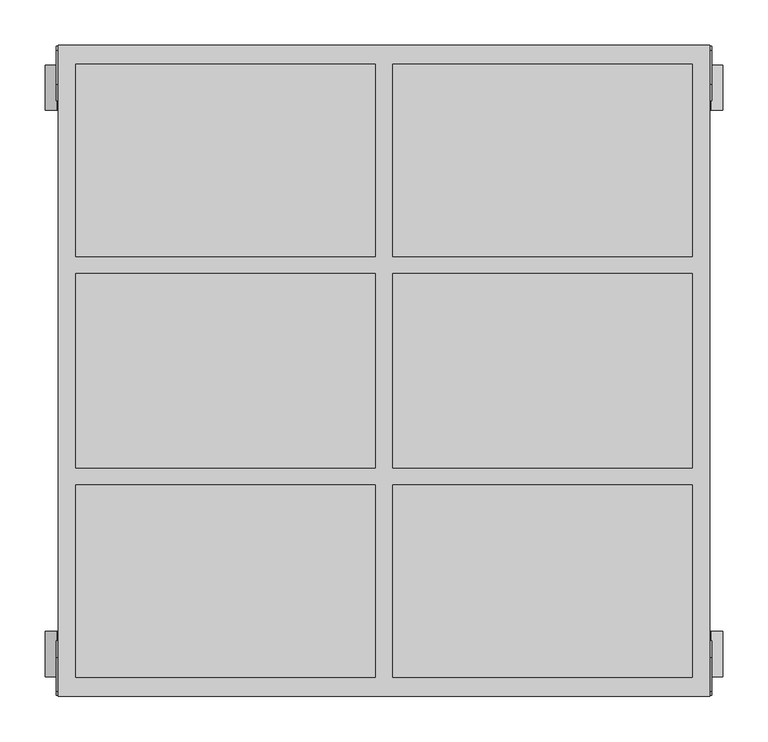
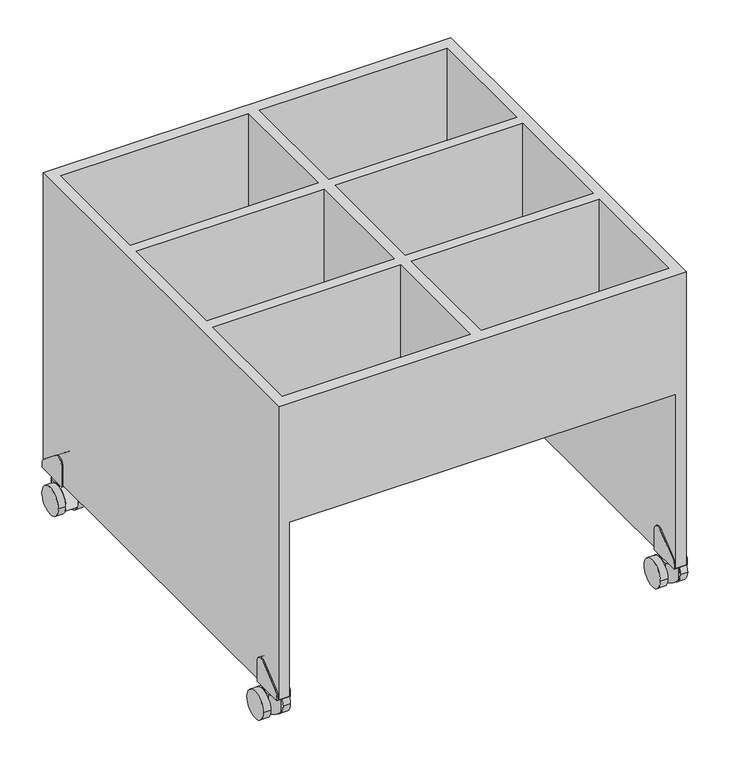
"""IFC4 building model written with IfcOpenShell, lengths in millimetres: furniture geometry, BK Library - Mille - Bookbrowser Large : BK Library - Mille - Bookbrowser Large."""

from ifc_helpers import new_model, si_unit, point, frame, frame_2d, origin, place, context, project, spatial, polyline, circle_curve, trimmed, segment, composite_curve, outline, extrude, faceted_brep, source, transform, mapped, element, save
from ifc_brep_helpers import plane_surface, cylinder_surface, advanced_brep


def furniture_7b108c40(model_context):
    return source(origin(), model_context, "Body", "SolidModel", [
        faceted_brep([(-340.0, -359.0, 57.3), (-340.0, 359.0, 57.3), (-340.0, 359.0, 380.4116783), (-340.0, -359.0, 380.4116783), (-340.0, 338.0, 401.4116783), (-340.0, 338.0, 602.4116783), (-340.0, 126.0, 602.4116783), (-340.0, 126.0, 401.4116783), (-340.0, -338.0, 602.4116783), (-340.0, -338.0, 401.4116783), (-340.0, -126.0, 401.4116783), (-340.0, -126.0, 602.4116783), (-340.0, 107.0, 401.4116783), (-340.0, 107.0, 602.4116783), (-340.0, -107.0, 602.4116783), (-340.0, -107.0, 401.4116783), (-359.0, -359.0, 57.3), (-359.0, -359.0, 602.4116783), (-359.0, 359.0, 602.4116783), (-359.0, 359.0, 57.3), (359.0, 359.0, 602.4116783), (359.0, 359.0, 57.3), (340.0, 359.0, 57.3), (340.0, 359.0, 380.4116783), (359.0, -359.0, 602.4116783), (-9.5, -338.0, 602.4116783), (-9.5, -126.0, 602.4116783), (340.0, -338.0, 602.4116783), (9.5, -338.0, 602.4116783), (9.5, -126.0, 602.4116783), (340.0, -126.0, 602.4116783), (-9.5, 338.0, 602.4116783), (-9.5, 126.0, 602.4116783), (9.5, 338.0, 602.4116783), (340.0, 338.0, 602.4116783), (340.0, 126.0, 602.4116783), (9.5, 126.0, 602.4116783), (340.0, 107.0, 602.4116783), (340.0, -107.0, 602.4116783), (9.5, -107.0, 602.4116783), (9.5, 107.0, 602.4116783), (-9.5, 107.0, 602.4116783), (-9.5, -107.0, 602.4116783), (340.0, -359.0, 380.4116783), (340.0, -359.0, 57.3), (359.0, -359.0, 57.3), (340.0, 338.0, 401.4116783), (340.0, 126.0, 401.4116783), (340.0, -338.0, 401.4116783), (340.0, -126.0, 401.4116783), (340.0, 107.0, 401.4116783), (340.0, -107.0, 401.4116783), (-9.5, 338.0, 401.4116783), (9.5, 338.0, 401.4116783), (-9.5, 126.0, 401.4116783), (9.5, 126.0, 401.4116783), (-9.5, -338.0, 401.4116783), (-9.5, -126.0, 401.4116783), (9.5, -338.0, 401.4116783), (9.5, -126.0, 401.4116783), (-9.5, 107.0, 401.4116783), (-9.5, -107.0, 401.4116783), (9.5, 107.0, 401.4116783), (9.5, -107.0, 401.4116783)], [[[0, 1, 2, 3]], [[4, 5, 6, 7]], [[8, 9, 10, 11]], [[12, 13, 14, 15]], [[16, 17, 18, 19]], [[1, 0, 16, 19]], [[19, 18, 20, 21, 22, 23, 2, 1]], [[18, 17, 24, 20], [25, 8, 11, 26], [27, 28, 29, 30], [5, 31, 32, 6], [33, 34, 35, 36], [37, 38, 39, 40], [41, 42, 14, 13]], [[17, 16, 0, 3, 43, 44, 45, 24]], [[22, 44, 43, 23]], [[34, 46, 47, 35]], [[48, 27, 30, 49]], [[37, 50, 51, 38]], [[45, 21, 20, 24]], [[44, 22, 21, 45]], [[5, 4, 52, 31]], [[46, 34, 33, 53]], [[52, 4, 7, 54]], [[46, 53, 55, 47]], [[9, 56, 57, 10]], [[58, 48, 49, 59]], [[60, 12, 15, 61]], [[50, 62, 63, 51]], [[9, 8, 25, 56]], [[27, 48, 58, 28]], [[43, 3, 2, 23]], [[31, 52, 54, 32]], [[56, 25, 26, 57]], [[41, 60, 61, 42]], [[53, 33, 36, 55]], [[28, 58, 59, 29]], [[62, 40, 39, 63]], [[37, 40, 62, 50]], [[41, 13, 12, 60]], [[6, 32, 54, 7]], [[36, 35, 47, 55]], [[39, 38, 51, 63]], [[14, 42, 61, 15]], [[26, 11, 10, 57]], [[30, 29, 59, 49]]]),
        advanced_brep(
        [(-338.7, 309.4283363, 49.8233517), (-360.3, 309.4283363, 49.8233517), (-360.3, 287.4288655, 25.0040683), (-360.3, 289.3888843, 15.3004984), (-338.7, 289.4134713, 15.242325), (-338.7, 287.4288655, 25.0040683), (-338.7, 309.4283363, 50.242325), (-360.3, 309.4283363, 50.242325), (-338.7, 330.0880613, 50.242325), (-360.3, 330.0880613, 50.242325), (-360.3, 330.0880613, 15.242325), (-338.7, 330.0880613, 15.242325)],
        [
            (0, 1),
            (1, 2, circle_curve(frame((-360.3, 312.4288655, 25.0040683), z_axis=(1.0, 0.0, 0.0), x_axis=(0.0, 1.0, 0.0)), 25.0)),
            (2, 3, circle_curve(frame((-360.3, 312.4288655, 25.0040683), z_axis=(1.0, 0.0, 0.0), x_axis=(0.0, 1.0, 0.0)), 25.0)),
            (3, 4),
            (4, 5, circle_curve(frame((-338.7, 312.4288655, 25.0040683), z_axis=(-1.0, 0.0, 0.0), x_axis=(0.0, 1.0, 0.0)), 25.0)),
            (5, 0, circle_curve(frame((-338.7, 312.4288655, 25.0040683), z_axis=(-1.0, 0.0, 0.0), x_axis=(0.0, 1.0, 0.0)), 25.0)),
            (0, 6),
            (6, 7),
            (7, 1),
            (8, 9, circle_curve(frame((-349.5, 328.0, 50.242325), z_axis=(0.0, 0.0, 1.0), x_axis=(-1.0, 0.0, 0.0)), 11.0)),
            (9, 7),
            (6, 8),
            (10, 11, circle_curve(frame((-349.5, 328.0, 15.242325), z_axis=(0.0, 0.0, -1.0), x_axis=(-1.0, 0.0, 0.0)), 11.0)),
            (11, 4),
            (3, 10),
            (11, 8),
            (9, 10),
        ],
        [
            cylinder_surface(frame((-324.1978919, 312.4288655, 25.0040683), z_axis=(1.0, 0.0, 0.0), x_axis=(0.0, 1.0, 0.0)), 25.0),
            plane_surface(frame((-392.3193932, 309.4283363, 53.2084184), z_axis=(0.0, -1.0, 0.0), x_axis=(1.0, 0.0, 0.0))),
            plane_surface(frame((-360.5, 328.0, 50.242325), z_axis=(0.0, 0.0, 1.0), x_axis=(0.0, -1.0, 0.0))),
            plane_surface(frame((-360.5, 328.0, 15.242325), z_axis=(0.0, 0.0, -1.0), x_axis=(0.0, 1.0, 0.0))),
            plane_surface(frame((-338.7, 287.4288655, 50.242325), z_axis=(1.0, 0.0, 0.0), x_axis=(0.0, 0.0, -1.0))),
            plane_surface(frame((-360.3, 330.0880613, 50.242325), z_axis=(-1.0, 0.0, 0.0), x_axis=(0.0, 0.0, -1.0))),
            cylinder_surface(frame((-349.5, 328.0, 15.242325), z_axis=(0.0, 0.0, 1.0), x_axis=(-1.0, 0.0, 0.0)), 11.0),
        ],
        [
            (0, [[1, 2, 3, 4, 5, 6]]),
            (1, [[-1, 7, 8, 9]]),
            (2, [[10, 11, -8, 12]]),
            (3, [[13, 14, -4, 15]]),
            (4, [[16, -12, -7, -6, -5, -14]]),
            (5, [[17, -15, -3, -2, -9, -11]]),
            (6, [[-10, -16, -13, -17]]),
        ],
    ),
        advanced_brep(
        [(-338.7, 287.4288655, 25.0040683), (-338.7, 309.4283363, 49.8233517), (-338.7, 337.4288655, 25.0040683), (-338.7, 289.3888843, 15.3004984), (-325.7, 287.4288655, 25.0040683), (-325.7, 289.3888843, 15.3004984), (-325.7, 337.4288655, 25.0040683), (-325.7, 309.4283363, 49.8233517)],
        [
            (0, 1, circle_curve(frame((-338.7, 312.4288655, 25.0040683), z_axis=(-1.0, 0.0, 0.0), x_axis=(0.0, 1.0, 0.0)), 25.0)),
            (1, 2, circle_curve(frame((-338.7, 312.4288655, 25.0040683), z_axis=(-1.0, 0.0, 0.0), x_axis=(0.0, 1.0, 0.0)), 25.0)),
            (2, 3, circle_curve(frame((-338.7, 312.4288655, 25.0040683), z_axis=(-1.0, 0.0, 0.0), x_axis=(0.0, 1.0, 0.0)), 25.0)),
            (3, 0, circle_curve(frame((-338.7, 312.4288655, 25.0040683), z_axis=(-1.0, 0.0, 0.0), x_axis=(0.0, 1.0, 0.0)), 25.0)),
            (4, 5, circle_curve(frame((-325.7, 312.4288655, 25.0040683), z_axis=(1.0, 0.0, 0.0), x_axis=(0.0, 1.0, 0.0)), 25.0)),
            (5, 6, circle_curve(frame((-325.7, 312.4288655, 25.0040683), z_axis=(1.0, 0.0, 0.0), x_axis=(0.0, 1.0, 0.0)), 25.0)),
            (6, 7, circle_curve(frame((-325.7, 312.4288655, 25.0040683), z_axis=(1.0, 0.0, 0.0), x_axis=(0.0, 1.0, 0.0)), 25.0)),
            (7, 4, circle_curve(frame((-325.7, 312.4288655, 25.0040683), z_axis=(1.0, 0.0, 0.0), x_axis=(0.0, 1.0, 0.0)), 25.0)),
            (2, 6),
            (4, 0),
        ],
        [
            plane_surface(frame((-338.7, 337.4288655, 25.0040683), z_axis=(-1.0, 0.0, 0.0), x_axis=(0.0, 0.0, -1.0))),
            plane_surface(frame((-325.7, 337.4288655, 25.0040683), z_axis=(1.0, 0.0, 0.0), x_axis=(0.0, 0.0, 1.0))),
            cylinder_surface(frame((-325.7, 312.4288655, 25.0040683), z_axis=(-1.0, 0.0, 0.0), x_axis=(0.0, 1.0, 0.0)), 25.0),
        ],
        [
            (0, [[1, 2, 3, 4]]),
            (1, [[5, 6, 7, 8]]),
            (2, [[9, -6, -5, 10, -4, -3]]),
            (2, [[-9, -2, -1, -10, -8, -7]]),
        ],
    ),
        advanced_brep(
        [(-373.3, 287.4288655, 25.0040683), (-373.3, 309.4283363, 49.8233517), (-373.3, 337.4288655, 25.0040683), (-373.3, 289.3888843, 15.3004984), (-360.3, 287.4288655, 25.0040683), (-360.3, 289.3888843, 15.3004984), (-360.3, 337.4288655, 25.0040683), (-360.3, 309.4283363, 49.8233517)],
        [
            (0, 1, circle_curve(frame((-373.3, 312.4288655, 25.0040683), z_axis=(-1.0, 0.0, 0.0), x_axis=(0.0, 1.0, 0.0)), 25.0)),
            (1, 2, circle_curve(frame((-373.3, 312.4288655, 25.0040683), z_axis=(-1.0, 0.0, 0.0), x_axis=(0.0, 1.0, 0.0)), 25.0)),
            (2, 3, circle_curve(frame((-373.3, 312.4288655, 25.0040683), z_axis=(-1.0, 0.0, 0.0), x_axis=(0.0, 1.0, 0.0)), 25.0)),
            (3, 0, circle_curve(frame((-373.3, 312.4288655, 25.0040683), z_axis=(-1.0, 0.0, 0.0), x_axis=(0.0, 1.0, 0.0)), 25.0)),
            (4, 5, circle_curve(frame((-360.3, 312.4288655, 25.0040683), z_axis=(1.0, 0.0, 0.0), x_axis=(0.0, 1.0, 0.0)), 25.0)),
            (5, 6, circle_curve(frame((-360.3, 312.4288655, 25.0040683), z_axis=(1.0, 0.0, 0.0), x_axis=(0.0, 1.0, 0.0)), 25.0)),
            (6, 7, circle_curve(frame((-360.3, 312.4288655, 25.0040683), z_axis=(1.0, 0.0, 0.0), x_axis=(0.0, 1.0, 0.0)), 25.0)),
            (7, 4, circle_curve(frame((-360.3, 312.4288655, 25.0040683), z_axis=(1.0, 0.0, 0.0), x_axis=(0.0, 1.0, 0.0)), 25.0)),
            (2, 6),
            (4, 0),
        ],
        [
            plane_surface(frame((-373.3, 337.4288655, 25.0040683), z_axis=(-1.0, 0.0, 0.0), x_axis=(0.0, 0.0, -1.0))),
            plane_surface(frame((-360.3, 337.4288655, 25.0040683), z_axis=(1.0, 0.0, 0.0), x_axis=(0.0, 0.0, 1.0))),
            cylinder_surface(frame((-360.3, 312.4288655, 25.0040683), z_axis=(-1.0, 0.0, 0.0), x_axis=(0.0, 1.0, 0.0)), 25.0),
        ],
        [
            (0, [[1, 2, 3, 4]]),
            (1, [[5, 6, 7, 8]]),
            (2, [[9, -6, -5, 10, -4, -3]]),
            (2, [[-9, -2, -1, -10, -8, -7]]),
        ],
    ),
        extrude(outline(composite_curve([segment(trimmed(circle_curve(frame_2d((-349.5, 328.0)), 6.9282032), [point((-342.5717968, 328.0))], [point((-356.4282032, 328.0))], False, "CARTESIAN"), True, "CONTINUOUS"), segment(trimmed(circle_curve(frame_2d((-349.5, 328.0)), 6.9282032), [point((-356.4282032, 328.0))], [point((-342.5717968, 328.0))], False, "CARTESIAN"), True, "CONTINUOUS")], self_intersect=False)), frame((0.0, 0.0, 50.242325), z_axis=(0.0, 0.0, 1.0), x_axis=(1.0, 0.0, 0.0)), (0.0, 0.0, 1.0), 5.0581733),
        extrude(outline(composite_curve([segment(trimmed(circle_curve(frame_2d((345.500139, 63.2209576)), 12.5), [point((353.3541213, 72.9454093))], [point((358.000139, 63.2205187))], False, "CARTESIAN"), True, "CONTINUOUS"), segment(polyline([(358.000139, 63.2205187), (357.999861, 55.3004984), (298.000139, 55.3004984), (298.000139, 94.0004984)]), True, "CONTINUOUS"), segment(trimmed(circle_curve(frame_2d((309.300139, 94.0004984)), 11.3), [point((298.000139, 94.0004984))], [point((316.400139, 102.7914027))], False, "CARTESIAN"), True, "CONTINUOUS"), segment(polyline([(316.400139, 102.7914027), (353.3541213, 72.9454093)]), True, "CONTINUOUS")], self_intersect=False)), frame((-361.25, 0.0, 0.0), z_axis=(1.0, 0.0, 0.0), x_axis=(0.0, 1.0, 0.0)), (0.0, 0.0, 1.0), 23.5),
        advanced_brep(
        [(360.3, 309.4283363, 49.8233517), (338.7, 309.4283363, 49.8233517), (338.7, 287.4288655, 25.0040683), (338.7, 289.3888843, 15.3004984), (360.3, 289.4134713, 15.242325), (360.3, 287.4288655, 25.0040683), (360.3, 309.4283363, 50.242325), (338.7, 309.4283363, 50.242325), (360.3, 330.0880613, 50.242325), (338.7, 330.0880613, 50.242325), (338.7, 330.0880613, 15.242325), (360.3, 330.0880613, 15.242325)],
        [
            (0, 1),
            (1, 2, circle_curve(frame((338.7, 312.4288655, 25.0040683), z_axis=(1.0, 0.0, 0.0), x_axis=(0.0, 1.0, 0.0)), 25.0)),
            (2, 3, circle_curve(frame((338.7, 312.4288655, 25.0040683), z_axis=(1.0, 0.0, 0.0), x_axis=(0.0, 1.0, 0.0)), 25.0)),
            (3, 4),
            (4, 5, circle_curve(frame((360.3, 312.4288655, 25.0040683), z_axis=(-1.0, 0.0, 0.0), x_axis=(0.0, 1.0, 0.0)), 25.0)),
            (5, 0, circle_curve(frame((360.3, 312.4288655, 25.0040683), z_axis=(-1.0, 0.0, 0.0), x_axis=(0.0, 1.0, 0.0)), 25.0)),
            (0, 6),
            (6, 7),
            (7, 1),
            (8, 9, circle_curve(frame((349.5, 328.0, 50.242325), z_axis=(0.0, 0.0, 1.0), x_axis=(1.0, 0.0, 0.0)), 11.0)),
            (9, 7),
            (6, 8),
            (10, 11, circle_curve(frame((349.5, 328.0, 15.242325), z_axis=(0.0, 0.0, -1.0), x_axis=(1.0, 0.0, 0.0)), 11.0)),
            (11, 4),
            (3, 10),
            (9, 10),
            (11, 8),
        ],
        [
            cylinder_surface(frame((324.1978919, 312.4288655, 25.0040683), z_axis=(-1.0, 0.0, 0.0), x_axis=(0.0, 1.0, 0.0)), 25.0),
            plane_surface(frame((392.3193932, 309.4283363, 49.8233517), z_axis=(0.0, -1.0, 0.0), x_axis=(-1.0, 0.0, 0.0))),
            plane_surface(frame((338.7, 287.4288655, 50.242325), z_axis=(0.0, 0.0, 1.0), x_axis=(0.0, -1.0, 0.0))),
            plane_surface(frame((338.7, 287.4288655, 15.242325), z_axis=(0.0, 0.0, -1.0), x_axis=(0.0, 1.0, 0.0))),
            plane_surface(frame((338.7, 330.0880613, 50.242325), z_axis=(-1.0, 0.0, 0.0), x_axis=(0.0, 0.0, -1.0))),
            plane_surface(frame((360.3, 287.4288655, 50.242325), z_axis=(1.0, 0.0, 0.0), x_axis=(0.0, 0.0, -1.0))),
            cylinder_surface(frame((349.5, 328.0, 15.242325), z_axis=(0.0, 0.0, 1.0), x_axis=(1.0, 0.0, 0.0)), 11.0),
        ],
        [
            (0, [[1, 2, 3, 4, 5, 6]]),
            (1, [[-1, 7, 8, 9]]),
            (2, [[10, 11, -8, 12]]),
            (3, [[13, 14, -4, 15]]),
            (4, [[16, -15, -3, -2, -9, -11]]),
            (5, [[17, -12, -7, -6, -5, -14]]),
            (6, [[-10, -17, -13, -16]]),
        ],
    ),
        advanced_brep(
        [(338.7, 287.4288655, 25.0040683), (338.7, 289.3888843, 15.3004984), (338.7, 337.4288655, 25.0040683), (338.7, 309.4283363, 49.8233517), (325.7, 287.4288655, 25.0040683), (325.7, 309.4283363, 49.8233517), (325.7, 337.4288655, 25.0040683), (325.7, 289.3888843, 15.3004984)],
        [
            (0, 1, circle_curve(frame((338.7, 312.4288655, 25.0040683), z_axis=(1.0, 0.0, 0.0), x_axis=(0.0, 1.0, 0.0)), 25.0)),
            (1, 2, circle_curve(frame((338.7, 312.4288655, 25.0040683), z_axis=(1.0, 0.0, 0.0), x_axis=(0.0, 1.0, 0.0)), 25.0)),
            (2, 3, circle_curve(frame((338.7, 312.4288655, 25.0040683), z_axis=(1.0, 0.0, 0.0), x_axis=(0.0, 1.0, 0.0)), 25.0)),
            (3, 0, circle_curve(frame((338.7, 312.4288655, 25.0040683), z_axis=(1.0, 0.0, 0.0), x_axis=(0.0, 1.0, 0.0)), 25.0)),
            (4, 5, circle_curve(frame((325.7, 312.4288655, 25.0040683), z_axis=(-1.0, 0.0, 0.0), x_axis=(0.0, 1.0, 0.0)), 25.0)),
            (5, 6, circle_curve(frame((325.7, 312.4288655, 25.0040683), z_axis=(-1.0, 0.0, 0.0), x_axis=(0.0, 1.0, 0.0)), 25.0)),
            (6, 7, circle_curve(frame((325.7, 312.4288655, 25.0040683), z_axis=(-1.0, 0.0, 0.0), x_axis=(0.0, 1.0, 0.0)), 25.0)),
            (7, 4, circle_curve(frame((325.7, 312.4288655, 25.0040683), z_axis=(-1.0, 0.0, 0.0), x_axis=(0.0, 1.0, 0.0)), 25.0)),
            (0, 4),
            (6, 2),
        ],
        [
            plane_surface(frame((338.7, 337.4288655, 25.0040683), z_axis=(1.0, 0.0, 0.0), x_axis=(0.0, 0.0, 1.0))),
            plane_surface(frame((325.7, 337.4288655, 25.0040683), z_axis=(-1.0, 0.0, 0.0), x_axis=(0.0, 0.0, -1.0))),
            cylinder_surface(frame((325.7, 312.4288655, 25.0040683), z_axis=(1.0, 0.0, 0.0), x_axis=(0.0, 1.0, 0.0)), 25.0),
        ],
        [
            (0, [[1, 2, 3, 4]]),
            (1, [[5, 6, 7, 8]]),
            (2, [[9, -8, -7, 10, -2, -1]]),
            (2, [[-9, -4, -3, -10, -6, -5]]),
        ],
    ),
        advanced_brep(
        [(373.3, 287.4288655, 25.0040683), (373.3, 289.3888843, 15.3004984), (373.3, 337.4288655, 25.0040683), (373.3, 309.4283363, 49.8233517), (360.3, 287.4288655, 25.0040683), (360.3, 309.4283363, 49.8233517), (360.3, 337.4288655, 25.0040683), (360.3, 289.3888843, 15.3004984)],
        [
            (0, 1, circle_curve(frame((373.3, 312.4288655, 25.0040683), z_axis=(1.0, 0.0, 0.0), x_axis=(0.0, 1.0, 0.0)), 25.0)),
            (1, 2, circle_curve(frame((373.3, 312.4288655, 25.0040683), z_axis=(1.0, 0.0, 0.0), x_axis=(0.0, 1.0, 0.0)), 25.0)),
            (2, 3, circle_curve(frame((373.3, 312.4288655, 25.0040683), z_axis=(1.0, 0.0, 0.0), x_axis=(0.0, 1.0, 0.0)), 25.0)),
            (3, 0, circle_curve(frame((373.3, 312.4288655, 25.0040683), z_axis=(1.0, 0.0, 0.0), x_axis=(0.0, 1.0, 0.0)), 25.0)),
            (4, 5, circle_curve(frame((360.3, 312.4288655, 25.0040683), z_axis=(-1.0, 0.0, 0.0), x_axis=(0.0, 1.0, 0.0)), 25.0)),
            (5, 6, circle_curve(frame((360.3, 312.4288655, 25.0040683), z_axis=(-1.0, 0.0, 0.0), x_axis=(0.0, 1.0, 0.0)), 25.0)),
            (6, 7, circle_curve(frame((360.3, 312.4288655, 25.0040683), z_axis=(-1.0, 0.0, 0.0), x_axis=(0.0, 1.0, 0.0)), 25.0)),
            (7, 4, circle_curve(frame((360.3, 312.4288655, 25.0040683), z_axis=(-1.0, 0.0, 0.0), x_axis=(0.0, 1.0, 0.0)), 25.0)),
            (0, 4),
            (6, 2),
        ],
        [
            plane_surface(frame((373.3, 337.4288655, 25.0040683), z_axis=(1.0, 0.0, 0.0), x_axis=(0.0, 0.0, 1.0))),
            plane_surface(frame((360.3, 337.4288655, 25.0040683), z_axis=(-1.0, 0.0, 0.0), x_axis=(0.0, 0.0, -1.0))),
            cylinder_surface(frame((360.3, 312.4288655, 25.0040683), z_axis=(1.0, 0.0, 0.0), x_axis=(0.0, 1.0, 0.0)), 25.0),
        ],
        [
            (0, [[1, 2, 3, 4]]),
            (1, [[5, 6, 7, 8]]),
            (2, [[9, -8, -7, 10, -2, -1]]),
            (2, [[-9, -4, -3, -10, -6, -5]]),
        ],
    ),
        extrude(outline(composite_curve([segment(trimmed(circle_curve(frame_2d((349.5, 328.0)), 6.9282032), [point((342.5717968, 328.0))], [point((356.4282032, 328.0))], False, "CARTESIAN"), True, "CONTINUOUS"), segment(trimmed(circle_curve(frame_2d((349.5, 328.0)), 6.9282032), [point((356.4282032, 328.0))], [point((342.5717968, 328.0))], False, "CARTESIAN"), True, "CONTINUOUS")], self_intersect=False)), frame((0.0, 0.0, 50.242325), z_axis=(0.0, 0.0, 1.0), x_axis=(1.0, 0.0, 0.0)), (0.0, 0.0, 1.0), 5.0581733),
        extrude(outline(composite_curve([segment(trimmed(circle_curve(frame_2d((345.500139, 63.2209576)), 12.5), [point((353.3541213, 72.9454093))], [point((358.000139, 63.2205187))], False, "CARTESIAN"), True, "CONTINUOUS"), segment(polyline([(358.000139, 63.2205187), (357.999861, 55.3004984), (298.000139, 55.3004984), (298.000139, 94.0004984)]), True, "CONTINUOUS"), segment(trimmed(circle_curve(frame_2d((309.300139, 94.0004984)), 11.3), [point((298.000139, 94.0004984))], [point((316.400139, 102.7914027))], False, "CARTESIAN"), True, "CONTINUOUS"), segment(polyline([(316.400139, 102.7914027), (353.3541213, 72.9454093)]), True, "CONTINUOUS")], self_intersect=False)), frame((337.75, 0.0, 0.0), z_axis=(1.0, 0.0, 0.0), x_axis=(0.0, 1.0, 0.0)), (0.0, 0.0, 1.0), 23.5),
        advanced_brep(
        [(338.7, -309.4283363, 49.8233517), (360.3, -309.4283363, 49.8233517), (360.3, -287.4288655, 25.0040683), (360.3, -289.3888843, 15.3004984), (338.7, -289.4134713, 15.242325), (338.7, -287.4288655, 25.0040683), (338.7, -309.4283363, 50.242325), (360.3, -309.4283363, 50.242325), (338.7, -330.0880613, 50.242325), (360.3, -330.0880613, 50.242325), (360.3, -330.0880613, 15.242325), (338.7, -330.0880613, 15.242325)],
        [
            (0, 1),
            (1, 2, circle_curve(frame((360.3, -312.4288655, 25.0040683), z_axis=(-1.0, 0.0, 0.0), x_axis=(0.0, -1.0, 0.0)), 25.0)),
            (2, 3, circle_curve(frame((360.3, -312.4288655, 25.0040683), z_axis=(-1.0, 0.0, 0.0), x_axis=(0.0, -1.0, 0.0)), 25.0)),
            (3, 4),
            (4, 5, circle_curve(frame((338.7, -312.4288655, 25.0040683), z_axis=(1.0, 0.0, 0.0), x_axis=(0.0, -1.0, 0.0)), 25.0)),
            (5, 0, circle_curve(frame((338.7, -312.4288655, 25.0040683), z_axis=(1.0, 0.0, 0.0), x_axis=(0.0, -1.0, 0.0)), 25.0)),
            (0, 6),
            (6, 7),
            (7, 1),
            (8, 9, circle_curve(frame((349.5, -328.0, 50.242325), z_axis=(0.0, 0.0, 1.0), x_axis=(1.0, 0.0, 0.0)), 11.0)),
            (9, 7),
            (6, 8),
            (10, 11, circle_curve(frame((349.5, -328.0, 15.242325), z_axis=(0.0, 0.0, -1.0), x_axis=(1.0, 0.0, 0.0)), 11.0)),
            (11, 4),
            (3, 10),
            (11, 8),
            (9, 10),
        ],
        [
            cylinder_surface(frame((324.1978919, -312.4288655, 25.0040683), z_axis=(-1.0, 0.0, 0.0), x_axis=(0.0, -1.0, 0.0)), 25.0),
            plane_surface(frame((392.3193932, -309.4283363, 53.2084184), z_axis=(0.0, 1.0, 0.0), x_axis=(-1.0, 0.0, 0.0))),
            plane_surface(frame((360.5, -328.0, 50.242325), z_axis=(0.0, 0.0, 1.0), x_axis=(0.0, 1.0, 0.0))),
            plane_surface(frame((360.5, -328.0, 15.242325), z_axis=(0.0, 0.0, -1.0), x_axis=(0.0, -1.0, 0.0))),
            plane_surface(frame((338.7, -287.4288655, 50.242325), z_axis=(-1.0, 0.0, 0.0), x_axis=(0.0, 0.0, -1.0))),
            plane_surface(frame((360.3, -330.0880613, 50.242325), z_axis=(1.0, 0.0, 0.0), x_axis=(0.0, 0.0, -1.0))),
            cylinder_surface(frame((349.5, -328.0, 15.242325), z_axis=(0.0, 0.0, 1.0), x_axis=(1.0, 0.0, 0.0)), 11.0),
        ],
        [
            (0, [[1, 2, 3, 4, 5, 6]]),
            (1, [[-1, 7, 8, 9]]),
            (2, [[10, 11, -8, 12]]),
            (3, [[13, 14, -4, 15]]),
            (4, [[16, -12, -7, -6, -5, -14]]),
            (5, [[17, -15, -3, -2, -9, -11]]),
            (6, [[-10, -16, -13, -17]]),
        ],
    ),
        advanced_brep(
        [(338.7, -287.4288655, 25.0040683), (338.7, -309.4283363, 49.8233517), (338.7, -337.4288655, 25.0040683), (338.7, -289.3888843, 15.3004984), (325.7, -287.4288655, 25.0040683), (325.7, -289.3888843, 15.3004984), (325.7, -337.4288655, 25.0040683), (325.7, -309.4283363, 49.8233517)],
        [
            (0, 1, circle_curve(frame((338.7, -312.4288655, 25.0040683), z_axis=(1.0, 0.0, 0.0), x_axis=(0.0, -1.0, 0.0)), 25.0)),
            (1, 2, circle_curve(frame((338.7, -312.4288655, 25.0040683), z_axis=(1.0, 0.0, 0.0), x_axis=(0.0, -1.0, 0.0)), 25.0)),
            (2, 3, circle_curve(frame((338.7, -312.4288655, 25.0040683), z_axis=(1.0, 0.0, 0.0), x_axis=(0.0, -1.0, 0.0)), 25.0)),
            (3, 0, circle_curve(frame((338.7, -312.4288655, 25.0040683), z_axis=(1.0, 0.0, 0.0), x_axis=(0.0, -1.0, 0.0)), 25.0)),
            (4, 5, circle_curve(frame((325.7, -312.4288655, 25.0040683), z_axis=(-1.0, 0.0, 0.0), x_axis=(0.0, -1.0, 0.0)), 25.0)),
            (5, 6, circle_curve(frame((325.7, -312.4288655, 25.0040683), z_axis=(-1.0, 0.0, 0.0), x_axis=(0.0, -1.0, 0.0)), 25.0)),
            (6, 7, circle_curve(frame((325.7, -312.4288655, 25.0040683), z_axis=(-1.0, 0.0, 0.0), x_axis=(0.0, -1.0, 0.0)), 25.0)),
            (7, 4, circle_curve(frame((325.7, -312.4288655, 25.0040683), z_axis=(-1.0, 0.0, 0.0), x_axis=(0.0, -1.0, 0.0)), 25.0)),
            (2, 6),
            (4, 0),
        ],
        [
            plane_surface(frame((338.7, -337.4288655, 25.0040683), z_axis=(1.0, 0.0, 0.0), x_axis=(0.0, 0.0, -1.0))),
            plane_surface(frame((325.7, -337.4288655, 25.0040683), z_axis=(-1.0, 0.0, 0.0), x_axis=(0.0, 0.0, 1.0))),
            cylinder_surface(frame((325.7, -312.4288655, 25.0040683), z_axis=(1.0, 0.0, 0.0), x_axis=(0.0, -1.0, 0.0)), 25.0),
        ],
        [
            (0, [[1, 2, 3, 4]]),
            (1, [[5, 6, 7, 8]]),
            (2, [[9, -6, -5, 10, -4, -3]]),
            (2, [[-9, -2, -1, -10, -8, -7]]),
        ],
    ),
        advanced_brep(
        [(373.3, -287.4288655, 25.0040683), (373.3, -309.4283363, 49.8233517), (373.3, -337.4288655, 25.0040683), (373.3, -289.3888843, 15.3004984), (360.3, -287.4288655, 25.0040683), (360.3, -289.3888843, 15.3004984), (360.3, -337.4288655, 25.0040683), (360.3, -309.4283363, 49.8233517)],
        [
            (0, 1, circle_curve(frame((373.3, -312.4288655, 25.0040683), z_axis=(1.0, 0.0, 0.0), x_axis=(0.0, -1.0, 0.0)), 25.0)),
            (1, 2, circle_curve(frame((373.3, -312.4288655, 25.0040683), z_axis=(1.0, 0.0, 0.0), x_axis=(0.0, -1.0, 0.0)), 25.0)),
            (2, 3, circle_curve(frame((373.3, -312.4288655, 25.0040683), z_axis=(1.0, 0.0, 0.0), x_axis=(0.0, -1.0, 0.0)), 25.0)),
            (3, 0, circle_curve(frame((373.3, -312.4288655, 25.0040683), z_axis=(1.0, 0.0, 0.0), x_axis=(0.0, -1.0, 0.0)), 25.0)),
            (4, 5, circle_curve(frame((360.3, -312.4288655, 25.0040683), z_axis=(-1.0, 0.0, 0.0), x_axis=(0.0, -1.0, 0.0)), 25.0)),
            (5, 6, circle_curve(frame((360.3, -312.4288655, 25.0040683), z_axis=(-1.0, 0.0, 0.0), x_axis=(0.0, -1.0, 0.0)), 25.0)),
            (6, 7, circle_curve(frame((360.3, -312.4288655, 25.0040683), z_axis=(-1.0, 0.0, 0.0), x_axis=(0.0, -1.0, 0.0)), 25.0)),
            (7, 4, circle_curve(frame((360.3, -312.4288655, 25.0040683), z_axis=(-1.0, 0.0, 0.0), x_axis=(0.0, -1.0, 0.0)), 25.0)),
            (2, 6),
            (4, 0),
        ],
        [
            plane_surface(frame((373.3, -337.4288655, 25.0040683), z_axis=(1.0, 0.0, 0.0), x_axis=(0.0, 0.0, -1.0))),
            plane_surface(frame((360.3, -337.4288655, 25.0040683), z_axis=(-1.0, 0.0, 0.0), x_axis=(0.0, 0.0, 1.0))),
            cylinder_surface(frame((360.3, -312.4288655, 25.0040683), z_axis=(1.0, 0.0, 0.0), x_axis=(0.0, -1.0, 0.0)), 25.0),
        ],
        [
            (0, [[1, 2, 3, 4]]),
            (1, [[5, 6, 7, 8]]),
            (2, [[9, -6, -5, 10, -4, -3]]),
            (2, [[-9, -2, -1, -10, -8, -7]]),
        ],
    ),
        extrude(outline(composite_curve([segment(trimmed(circle_curve(frame_2d((349.5, -328.0)), 6.9282032), [point((342.5717968, -328.0))], [point((356.4282032, -328.0))], False, "CARTESIAN"), True, "CONTINUOUS"), segment(trimmed(circle_curve(frame_2d((349.5, -328.0)), 6.9282032), [point((356.4282032, -328.0))], [point((342.5717968, -328.0))], False, "CARTESIAN"), True, "CONTINUOUS")], self_intersect=False)), frame((0.0, 0.0, 50.242325), z_axis=(0.0, 0.0, 1.0), x_axis=(1.0, 0.0, 0.0)), (0.0, 0.0, 1.0), 5.0581733),
        extrude(outline(composite_curve([segment(polyline([(-353.3541213, 72.9454093), (-316.400139, 102.7914027)]), True, "CONTINUOUS"), segment(trimmed(circle_curve(frame_2d((-309.300139, 94.0004984)), 11.3), [point((-316.400139, 102.7914027))], [point((-298.000139, 94.0004984))], False, "CARTESIAN"), True, "CONTINUOUS"), segment(polyline([(-298.000139, 94.0004984), (-298.000139, 55.3004984), (-357.999861, 55.3004984), (-358.000139, 63.2205187)]), True, "CONTINUOUS"), segment(trimmed(circle_curve(frame_2d((-345.500139, 63.2209576)), 12.5), [point((-358.000139, 63.2205187))], [point((-353.3541213, 72.9454093))], False, "CARTESIAN"), True, "CONTINUOUS")], self_intersect=False)), frame((337.75, 0.0, 0.0), z_axis=(1.0, 0.0, 0.0), x_axis=(0.0, 1.0, 0.0)), (0.0, 0.0, 1.0), 23.5),
        advanced_brep(
        [(-360.3, -309.4283363, 49.8233517), (-338.7, -309.4283363, 49.8233517), (-338.7, -287.4288655, 25.0040683), (-338.7, -289.3888843, 15.3004984), (-360.3, -289.4134713, 15.242325), (-360.3, -287.4288655, 25.0040683), (-360.3, -309.4283363, 50.242325), (-338.7, -309.4283363, 50.242325), (-360.3, -330.0880613, 50.242325), (-338.7, -330.0880613, 50.242325), (-338.7, -330.0880613, 15.242325), (-360.3, -330.0880613, 15.242325)],
        [
            (0, 1),
            (1, 2, circle_curve(frame((-338.7, -312.4288655, 25.0040683), z_axis=(-1.0, 0.0, 0.0), x_axis=(0.0, -1.0, 0.0)), 25.0)),
            (2, 3, circle_curve(frame((-338.7, -312.4288655, 25.0040683), z_axis=(-1.0, 0.0, 0.0), x_axis=(0.0, -1.0, 0.0)), 25.0)),
            (3, 4),
            (4, 5, circle_curve(frame((-360.3, -312.4288655, 25.0040683), z_axis=(1.0, 0.0, 0.0), x_axis=(0.0, -1.0, 0.0)), 25.0)),
            (5, 0, circle_curve(frame((-360.3, -312.4288655, 25.0040683), z_axis=(1.0, 0.0, 0.0), x_axis=(0.0, -1.0, 0.0)), 25.0)),
            (0, 6),
            (6, 7),
            (7, 1),
            (8, 9, circle_curve(frame((-349.5, -328.0, 50.242325), z_axis=(0.0, 0.0, 1.0), x_axis=(-1.0, 0.0, 0.0)), 11.0)),
            (9, 7),
            (6, 8),
            (10, 11, circle_curve(frame((-349.5, -328.0, 15.242325), z_axis=(0.0, 0.0, -1.0), x_axis=(-1.0, 0.0, 0.0)), 11.0)),
            (11, 4),
            (3, 10),
            (9, 10),
            (11, 8),
        ],
        [
            cylinder_surface(frame((-324.1978919, -312.4288655, 25.0040683), z_axis=(1.0, 0.0, 0.0), x_axis=(0.0, -1.0, 0.0)), 25.0),
            plane_surface(frame((-392.3193932, -309.4283363, 49.8233517), z_axis=(0.0, 1.0, 0.0), x_axis=(1.0, 0.0, 0.0))),
            plane_surface(frame((-338.7, -287.4288655, 50.242325), z_axis=(0.0, 0.0, 1.0), x_axis=(0.0, 1.0, 0.0))),
            plane_surface(frame((-338.7, -287.4288655, 15.242325), z_axis=(0.0, 0.0, -1.0), x_axis=(0.0, -1.0, 0.0))),
            plane_surface(frame((-338.7, -330.0880613, 50.242325), z_axis=(1.0, 0.0, 0.0), x_axis=(0.0, 0.0, -1.0))),
            plane_surface(frame((-360.3, -287.4288655, 50.242325), z_axis=(-1.0, 0.0, 0.0), x_axis=(0.0, 0.0, -1.0))),
            cylinder_surface(frame((-349.5, -328.0, 15.242325), z_axis=(0.0, 0.0, 1.0), x_axis=(-1.0, 0.0, 0.0)), 11.0),
        ],
        [
            (0, [[1, 2, 3, 4, 5, 6]]),
            (1, [[-1, 7, 8, 9]]),
            (2, [[10, 11, -8, 12]]),
            (3, [[13, 14, -4, 15]]),
            (4, [[16, -15, -3, -2, -9, -11]]),
            (5, [[17, -12, -7, -6, -5, -14]]),
            (6, [[-10, -17, -13, -16]]),
        ],
    ),
        advanced_brep(
        [(-338.7, -287.4288655, 25.0040683), (-338.7, -289.3888843, 15.3004984), (-338.7, -337.4288655, 25.0040683), (-338.7, -309.4283363, 49.8233517), (-325.7, -287.4288655, 25.0040683), (-325.7, -309.4283363, 49.8233517), (-325.7, -337.4288655, 25.0040683), (-325.7, -289.3888843, 15.3004984)],
        [
            (0, 1, circle_curve(frame((-338.7, -312.4288655, 25.0040683), z_axis=(-1.0, 0.0, 0.0), x_axis=(0.0, -1.0, 0.0)), 25.0)),
            (1, 2, circle_curve(frame((-338.7, -312.4288655, 25.0040683), z_axis=(-1.0, 0.0, 0.0), x_axis=(0.0, -1.0, 0.0)), 25.0)),
            (2, 3, circle_curve(frame((-338.7, -312.4288655, 25.0040683), z_axis=(-1.0, 0.0, 0.0), x_axis=(0.0, -1.0, 0.0)), 25.0)),
            (3, 0, circle_curve(frame((-338.7, -312.4288655, 25.0040683), z_axis=(-1.0, 0.0, 0.0), x_axis=(0.0, -1.0, 0.0)), 25.0)),
            (4, 5, circle_curve(frame((-325.7, -312.4288655, 25.0040683), z_axis=(1.0, 0.0, 0.0), x_axis=(0.0, -1.0, 0.0)), 25.0)),
            (5, 6, circle_curve(frame((-325.7, -312.4288655, 25.0040683), z_axis=(1.0, 0.0, 0.0), x_axis=(0.0, -1.0, 0.0)), 25.0)),
            (6, 7, circle_curve(frame((-325.7, -312.4288655, 25.0040683), z_axis=(1.0, 0.0, 0.0), x_axis=(0.0, -1.0, 0.0)), 25.0)),
            (7, 4, circle_curve(frame((-325.7, -312.4288655, 25.0040683), z_axis=(1.0, 0.0, 0.0), x_axis=(0.0, -1.0, 0.0)), 25.0)),
            (0, 4),
            (6, 2),
        ],
        [
            plane_surface(frame((-338.7, -337.4288655, 25.0040683), z_axis=(-1.0, 0.0, 0.0), x_axis=(0.0, 0.0, 1.0))),
            plane_surface(frame((-325.7, -337.4288655, 25.0040683), z_axis=(1.0, 0.0, 0.0), x_axis=(0.0, 0.0, -1.0))),
            cylinder_surface(frame((-325.7, -312.4288655, 25.0040683), z_axis=(-1.0, 0.0, 0.0), x_axis=(0.0, -1.0, 0.0)), 25.0),
        ],
        [
            (0, [[1, 2, 3, 4]]),
            (1, [[5, 6, 7, 8]]),
            (2, [[9, -8, -7, 10, -2, -1]]),
            (2, [[-9, -4, -3, -10, -6, -5]]),
        ],
    ),
        advanced_brep(
        [(-373.3, -287.4288655, 25.0040683), (-373.3, -289.3888843, 15.3004984), (-373.3, -337.4288655, 25.0040683), (-373.3, -309.4283363, 49.8233517), (-360.3, -287.4288655, 25.0040683), (-360.3, -309.4283363, 49.8233517), (-360.3, -337.4288655, 25.0040683), (-360.3, -289.3888843, 15.3004984)],
        [
            (0, 1, circle_curve(frame((-373.3, -312.4288655, 25.0040683), z_axis=(-1.0, 0.0, 0.0), x_axis=(0.0, -1.0, 0.0)), 25.0)),
            (1, 2, circle_curve(frame((-373.3, -312.4288655, 25.0040683), z_axis=(-1.0, 0.0, 0.0), x_axis=(0.0, -1.0, 0.0)), 25.0)),
            (2, 3, circle_curve(frame((-373.3, -312.4288655, 25.0040683), z_axis=(-1.0, 0.0, 0.0), x_axis=(0.0, -1.0, 0.0)), 25.0)),
            (3, 0, circle_curve(frame((-373.3, -312.4288655, 25.0040683), z_axis=(-1.0, 0.0, 0.0), x_axis=(0.0, -1.0, 0.0)), 25.0)),
            (4, 5, circle_curve(frame((-360.3, -312.4288655, 25.0040683), z_axis=(1.0, 0.0, 0.0), x_axis=(0.0, -1.0, 0.0)), 25.0)),
            (5, 6, circle_curve(frame((-360.3, -312.4288655, 25.0040683), z_axis=(1.0, 0.0, 0.0), x_axis=(0.0, -1.0, 0.0)), 25.0)),
            (6, 7, circle_curve(frame((-360.3, -312.4288655, 25.0040683), z_axis=(1.0, 0.0, 0.0), x_axis=(0.0, -1.0, 0.0)), 25.0)),
            (7, 4, circle_curve(frame((-360.3, -312.4288655, 25.0040683), z_axis=(1.0, 0.0, 0.0), x_axis=(0.0, -1.0, 0.0)), 25.0)),
            (0, 4),
            (6, 2),
        ],
        [
            plane_surface(frame((-373.3, -337.4288655, 25.0040683), z_axis=(-1.0, 0.0, 0.0), x_axis=(0.0, 0.0, 1.0))),
            plane_surface(frame((-360.3, -337.4288655, 25.0040683), z_axis=(1.0, 0.0, 0.0), x_axis=(0.0, 0.0, -1.0))),
            cylinder_surface(frame((-360.3, -312.4288655, 25.0040683), z_axis=(-1.0, 0.0, 0.0), x_axis=(0.0, -1.0, 0.0)), 25.0),
        ],
        [
            (0, [[1, 2, 3, 4]]),
            (1, [[5, 6, 7, 8]]),
            (2, [[9, -8, -7, 10, -2, -1]]),
            (2, [[-9, -4, -3, -10, -6, -5]]),
        ],
    ),
        extrude(outline(composite_curve([segment(trimmed(circle_curve(frame_2d((-349.5, -328.0)), 6.9282032), [point((-342.5717968, -328.0))], [point((-356.4282032, -328.0))], False, "CARTESIAN"), True, "CONTINUOUS"), segment(trimmed(circle_curve(frame_2d((-349.5, -328.0)), 6.9282032), [point((-356.4282032, -328.0))], [point((-342.5717968, -328.0))], False, "CARTESIAN"), True, "CONTINUOUS")], self_intersect=False)), frame((0.0, 0.0, 50.242325), z_axis=(0.0, 0.0, 1.0), x_axis=(1.0, 0.0, 0.0)), (0.0, 0.0, 1.0), 5.0581733),
        extrude(outline(composite_curve([segment(polyline([(-353.3541213, 72.9454093), (-316.400139, 102.7914027)]), True, "CONTINUOUS"), segment(trimmed(circle_curve(frame_2d((-309.300139, 94.0004984)), 11.3), [point((-316.400139, 102.7914027))], [point((-298.000139, 94.0004984))], False, "CARTESIAN"), True, "CONTINUOUS"), segment(polyline([(-298.000139, 94.0004984), (-298.000139, 55.3004984), (-357.999861, 55.3004984), (-358.000139, 63.2205187)]), True, "CONTINUOUS"), segment(trimmed(circle_curve(frame_2d((-345.500139, 63.2209576)), 12.5), [point((-358.000139, 63.2205187))], [point((-353.3541213, 72.9454093))], False, "CARTESIAN"), True, "CONTINUOUS")], self_intersect=False)), frame((-361.25, 0.0, 0.0), z_axis=(1.0, 0.0, 0.0), x_axis=(0.0, 1.0, 0.0)), (0.0, 0.0, 1.0), 23.5),
    ])


if __name__ == "__main__":
    model = new_model("IFC4")
    model_context = context("Model", 3, world=origin())
    ifc_project = project(units=[si_unit("LENGTHUNIT", "METRE", prefix="MILLI")], contexts=[model_context])
    site = spatial("IfcSite", under=ifc_project)
    building = spatial("IfcBuilding", under=site)
    placement = place(None, origin())
    furniture_shape = furniture_7b108c40(model_context)
    element("IfcFurniture", 1, ObjectType="BK Library - Mille - Bookbrowser Large : BK Library - Mille - Bookbrowser Large", at=placement, inside=building, context=model_context, shape_type="MappedRepresentation", body=[
        mapped(furniture_shape, transform((0.0, 0.0, 0.0), x_axis=(1.0, 0.0, 0.0), y_axis=(0.0, 1.0, 0.0), z_axis=(0.0, 0.0, 1.0))),
    ])
    save(model, "model.ifc")
